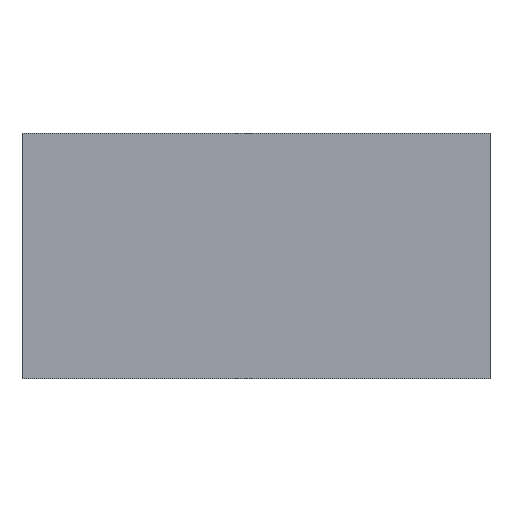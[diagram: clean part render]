
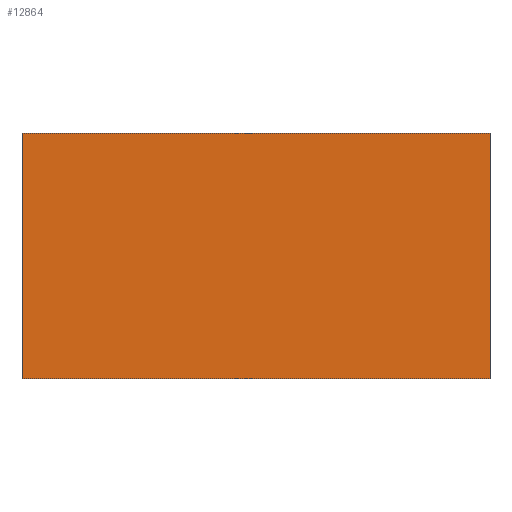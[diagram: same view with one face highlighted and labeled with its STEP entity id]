
A CAD part, top view. The second image highlights one B-rep face of the part: STEP entity #12864.
In plain terms, the highlighted planar face has unit normal (0, 0, 1).
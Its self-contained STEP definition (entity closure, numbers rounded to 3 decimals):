
#1268=ORIENTED_EDGE('',*,*,#4958,.T.);
#1269=ORIENTED_EDGE('',*,*,#4984,.F.);
#1270=ORIENTED_EDGE('',*,*,#4966,.F.);
#1271=ORIENTED_EDGE('',*,*,#4983,.T.);
#4958=EDGE_CURVE('',#6814,#6813,#8065,.T.);
#4966=EDGE_CURVE('',#6821,#6822,#8073,.T.);
#4983=EDGE_CURVE('',#6821,#6814,#8084,.T.);
#4984=EDGE_CURVE('',#6822,#6813,#8085,.T.);
#6813=VERTEX_POINT('',#19156);
#6814=VERTEX_POINT('',#19158);
#6821=VERTEX_POINT('',#19174);
#6822=VERTEX_POINT('',#19176);
#8065=LINE('',#19157,#9366);
#8073=LINE('',#19175,#9374);
#8084=LINE('',#19205,#9385);
#8085=LINE('',#19207,#9386);
#9366=VECTOR('',#15299,1000.);
#9374=VECTOR('',#15311,1000.);
#9385=VECTOR('',#15338,1000.);
#9386=VECTOR('',#15341,1000.);
#10644=EDGE_LOOP('',(#1268,#1269,#1270,#1271));
#11563=FACE_BOUND('',#10644,.T.);
#12436=PLANE('',#13818);
#12864=ADVANCED_FACE('',(#11563),#12436,.F.);
#13818=AXIS2_PLACEMENT_3D('',#19206,#15339,#15340);
#15299=DIRECTION('',(-1.,0.,0.));
#15311=DIRECTION('',(-1.,0.,0.));
#15338=DIRECTION('',(0.,1.,0.));
#15339=DIRECTION('',(0.,0.,-1.));
#15340=DIRECTION('',(-1.,0.,0.));
#15341=DIRECTION('',(0.,1.,0.));
#19156=CARTESIAN_POINT('',(-381.,200.,75.));
#19157=CARTESIAN_POINT('',(0.,200.,75.));
#19158=CARTESIAN_POINT('',(381.,200.,75.));
#19174=CARTESIAN_POINT('',(381.,-200.,75.));
#19175=CARTESIAN_POINT('',(0.,-200.,75.));
#19176=CARTESIAN_POINT('',(-381.,-200.,75.));
#19205=CARTESIAN_POINT('',(381.,-200.,75.));
#19206=CARTESIAN_POINT('',(0.,-200.,75.));
#19207=CARTESIAN_POINT('',(-381.,-200.,75.));
